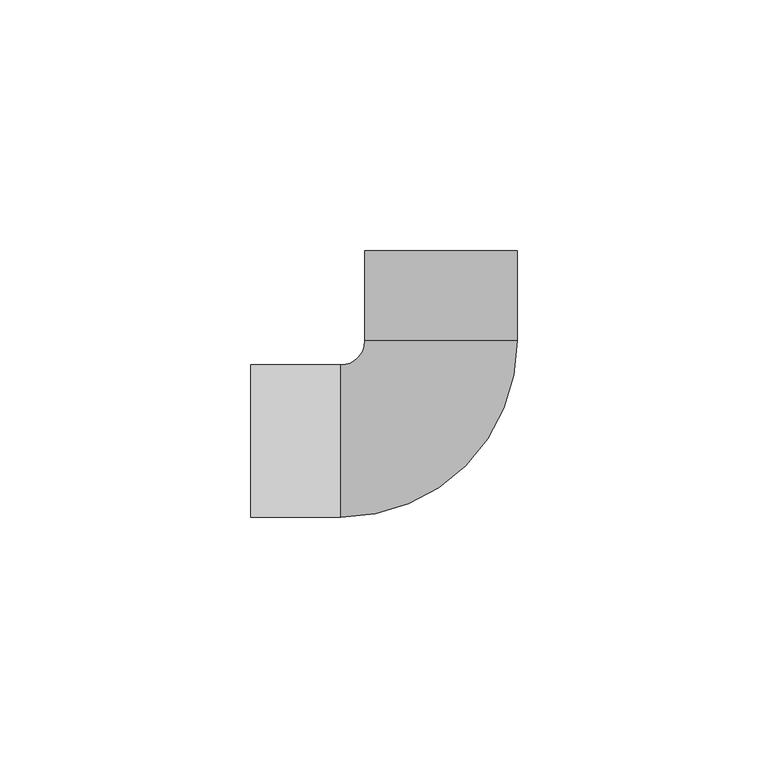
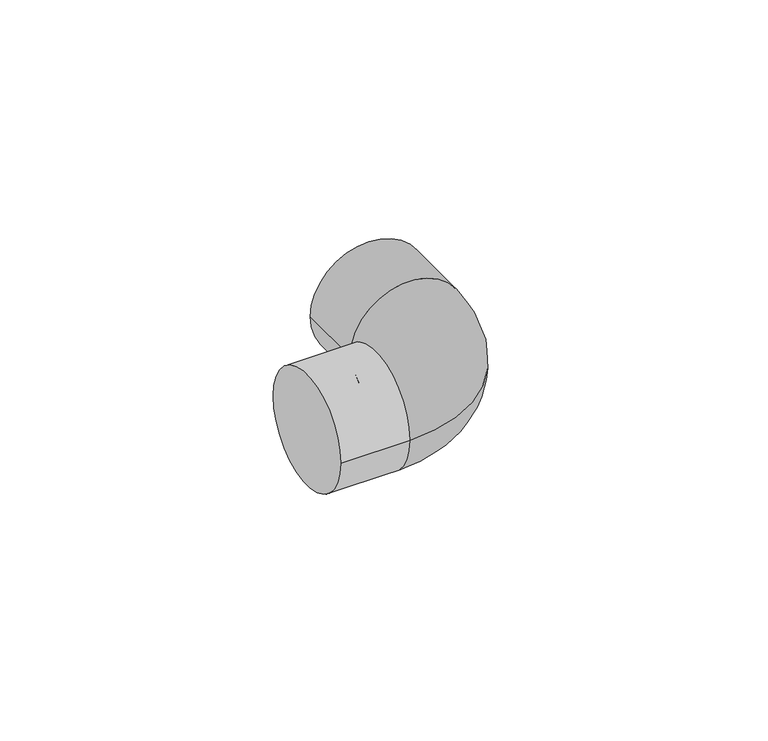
"""IFC4 building model written with IfcOpenShell, lengths in millimetres: pipe fitting geometry, 01101002 : Codos 90º."""

from ifc_helpers import new_model, si_unit, point, frame, origin, place, context, project, spatial, circle_curve, ellipse_curve, trimmed, source, transform, mapped, element, save
from ifc_brep_helpers import plane_surface, cylinder_surface, revolved_surface, advanced_brep


def pipe_fitting_eaf41bc5(model_context):
    return source(origin(), model_context, "Body", "AdvancedBrep", [
        advanced_brep(
        [(-20.0, -15.2, 0.0), (15.2, 20.0, 0.0), (-15.2, 20.0, 0.0), (-20.0, 15.2, 0.0), (-15.2, 38.0, 0.0), (15.2, 38.0, 0.0), (-38.0, 15.2, 0.0), (-38.0, -15.2, 0.0)],
        [
            (0, 1, circle_curve(frame((-20.0, 20.0, 0.0), z_axis=(0.0, 0.0, 1.0), x_axis=(1.0, 0.0, 0.0)), 35.2)),
            (1, 2, circle_curve(frame((0.0, 20.0, 0.0), z_axis=(0.0, -1.0, 0.0), x_axis=(1.0, 0.0, 0.0)), 15.2)),
            (2, 3, circle_curve(frame((-20.0, 20.0, 0.0), z_axis=(0.0, 0.0, -1.0), x_axis=(1.0, 0.0, 0.0)), 4.8)),
            (3, 0, circle_curve(frame((-20.0, 0.0, 0.0), z_axis=(1.0, 0.0, 0.0), x_axis=(0.0, -1.0, 0.0)), 15.2)),
            (2, 1, circle_curve(frame((0.0, 20.0, 0.0), z_axis=(0.0, -1.0, 0.0), x_axis=(1.0, 0.0, 0.0)), 15.2)),
            (0, 3, circle_curve(frame((-20.0, 0.0, 0.0), z_axis=(1.0, 0.0, 0.0), x_axis=(0.0, -1.0, 0.0)), 15.2)),
            (4, 5, circle_curve(frame((0.0, 38.0, 0.0), z_axis=(0.0, 1.0, 0.0), x_axis=(1.0, 0.0, 0.0)), 15.2)),
            (5, 4, circle_curve(frame((0.0, 38.0, 0.0), z_axis=(0.0, 1.0, 0.0), x_axis=(1.0, 0.0, 0.0)), 15.2)),
            (6, 7, circle_curve(frame((-38.0, 0.0, 0.0), z_axis=(-1.0, 0.0, 0.0), x_axis=(0.0, -1.0, 0.0)), 15.2)),
            (7, 6, circle_curve(frame((-38.0, 0.0, 0.0), z_axis=(-1.0, 0.0, 0.0), x_axis=(0.0, -1.0, 0.0)), 15.2)),
            (3, 6),
            (7, 0),
            (4, 2),
            (1, 5),
        ],
        [
            revolved_surface(trimmed(ellipse_curve(frame((0.0, 20.0, 0.0), z_axis=(0.0, 1.0, 0.0), x_axis=(1.0, 0.0, 0.0)), 15.2, 15.2), [point((-15.2, 20.0, 0.0))], [point((15.2, 20.0, 0.0))], True, "CARTESIAN"), (-20.0, 20.0, 0.0), (0.0, 0.0, -1.0)),
            revolved_surface(trimmed(ellipse_curve(frame((0.0, 20.0, 0.0), z_axis=(0.0, 1.0, 0.0), x_axis=(1.0, 0.0, 0.0)), 15.2, 15.2), [point((15.2, 20.0, 0.0))], [point((-15.2, 20.0, 0.0))], True, "CARTESIAN"), (-20.0, 20.0, 0.0), (0.0, 0.0, -1.0)),
            plane_surface(frame((0.0, 38.0, 0.0), z_axis=(0.0, 1.0, 0.0), x_axis=(0.0, 0.0, 1.0))),
            plane_surface(frame((-38.0, 0.0, 0.0), z_axis=(-1.0, 0.0, 0.0), x_axis=(0.0, 0.0, 1.0))),
            cylinder_surface(frame((-20.0, 0.0, 0.0), z_axis=(1.0, 0.0, 0.0), x_axis=(0.0, -1.0, 0.0)), 15.2),
            cylinder_surface(frame((0.0, 38.0, 0.0), z_axis=(0.0, 1.0, 0.0), x_axis=(1.0, 0.0, 0.0)), 15.2),
        ],
        [
            (0, [[1, 2, 3, 4]]),
            (1, [[-3, 5, -1, 6]]),
            (2, [[7, 8]]),
            (3, [[9, 10]]),
            (4, [[-4, 11, -10, 12]]),
            (4, [[-6, -12, -9, -11]]),
            (5, [[-7, 13, -2, 14]]),
            (5, [[-8, -14, -5, -13]]),
        ],
    ),
    ])


if __name__ == "__main__":
    model = new_model("IFC4")
    model_context = context("Model", 3, world=origin())
    ifc_project = project(units=[si_unit("LENGTHUNIT", "METRE", prefix="MILLI")], contexts=[model_context])
    site = spatial("IfcSite", under=ifc_project)
    building = spatial("IfcBuilding", under=site)
    placement = place(None, origin())
    pipe_fitting_shape = pipe_fitting_eaf41bc5(model_context)
    element("IfcPipeFitting", 1, ObjectType="01101002 : Codos 90º", at=placement, inside=building, context=model_context, shape_type="MappedRepresentation", body=[
        mapped(pipe_fitting_shape, transform((0.0, 0.0, 0.0), x_axis=(1.0, 0.0, 0.0), y_axis=(0.0, 1.0, 0.0), z_axis=(0.0, 0.0, 1.0))),
    ])
    save(model, "model.ifc")
